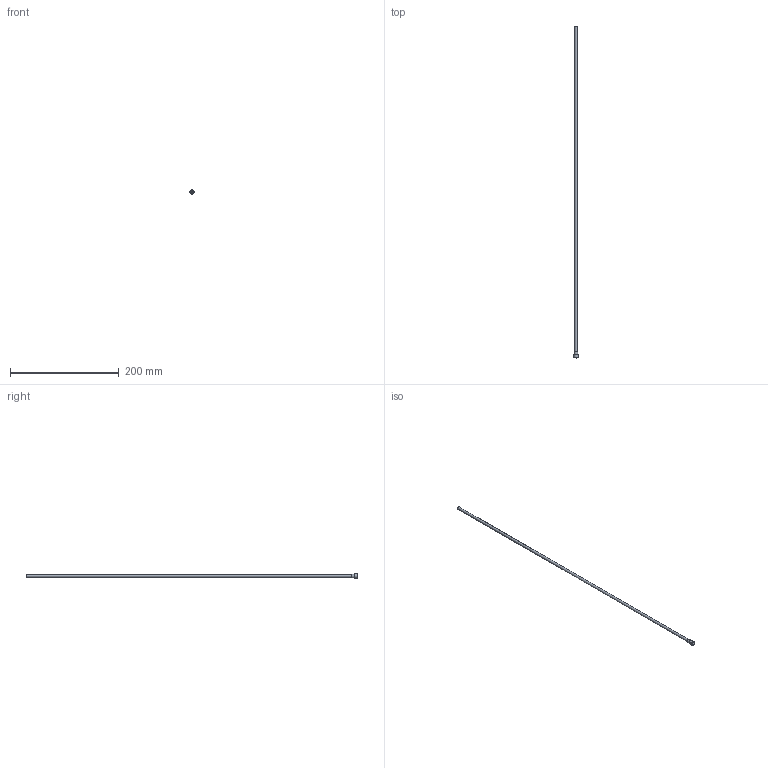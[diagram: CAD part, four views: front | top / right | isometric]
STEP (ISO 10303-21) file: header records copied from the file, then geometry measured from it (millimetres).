
FILE_DESCRIPTION(/* description */ (''),/* implementation_level */ '2;1');
FILE_NAME(/* name */ 'C:/Users/drich/Desktop/R187T-24 v1.step',/* time_stamp */ '2019-12-30T13:14:37-06:00',/* author */ (''),/* organization */ (''),/* preprocessor_version */ 'ST-DEVELOPER v18',/* originating_system */ 'Autodesk Translation Framework v8.12.0.6',/* authorisation */ '');
FILE_SCHEMA (('AUTOMOTIVE_DESIGN { 1 0 10303 214 3 1 1 }'));
Length unit declared in the file: inch
Products named in the file (1): R187T-24
Bounding box: 7.77 x 609.6 x 7.77 mm (x, y, z)
Volume: 2324.2 mm3; surface area: 17329.1 mm2
Topology: 1 solids, 1 shells, 19 faces, 47 edges, 33 vertices
Faces by surface type: plane 11, cylinder 4, torus 3, cone 1
Full cylindrical faces by diameter (mm): 4.242 x1, 4.724 x1, 6.243 x1, 7.772 x1
Entity records: 624 total; most frequent: DIRECTION 111, CARTESIAN_POINT 100, ORIENTED_EDGE 94, EDGE_CURVE 47, AXIS2_PLACEMENT_3D 44, VERTEX_POINT 33, EDGE_LOOP 24, CIRCLE 24
